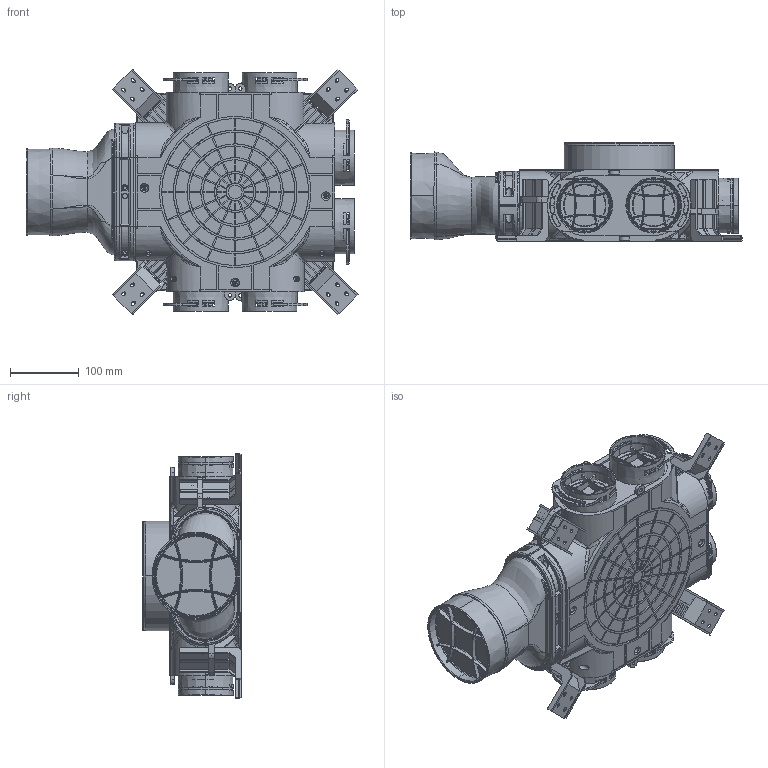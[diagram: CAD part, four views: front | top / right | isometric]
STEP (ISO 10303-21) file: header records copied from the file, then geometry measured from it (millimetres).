
FILE_DESCRIPTION((''),'2;1');
FILE_NAME('VCB160-6-P125_UPR_ASM','2025-12-29T15:58:10',('niepogodzinskij'),(''),'CREO PARAMETRIC BY PTC INC, 2025010','CREO PARAMETRIC BY PTC INC, 2025010','');
FILE_SCHEMA(('CONFIG_CONTROL_DESIGN'));
Length unit declared in the file: millimetre
Products named in the file (8): 0VCBOP_OBUD_VCB_PELNA_1_1_2_3_4; 0VCBP75X2_1_1_2_3_4; 0VPEO_OBEJMA_1_1_2_3_4; 0VCBP125_PRZYLACZE125_1_1_2_3_4; 0VBWM_WSPORNIK_VPB_VCB_1_1_2__4; 0VCBO160_OBUD_VCB_FI160_1; ASM0001_ASM_1_1_2_3_4_ASM; VCB160-6-P125_UPR_ASM
Assembly tree (13 placements, depth 3):
  VCB160-6-P125_UPR_ASM
    ASM0001_ASM_1_1_2_3_4_ASM
      0VCBOP_OBUD_VCB_PELNA_1_1_2_3_4
      0VCBP75X2_1_1_2_3_4  x3
      0VPEO_OBEJMA_1_1_2_3_4  x2
      0VCBP125_PRZYLACZE125_1_1_2_3_4
      0VBWM_WSPORNIK_VPB_VCB_1_1_2__4  x4
      0VCBO160_OBUD_VCB_FI160_1
Bounding box: 483.18 x 143.7 x 357.57 mm (x, y, z)
Volume: 9693671.8 mm3; surface area: 1039114.5 mm2
Topology: 12 solids, 17 shells, 5535 faces, 14765 edges, 9173 vertices
Faces by surface type: plane 1889, cylinder 1258, torus 930, bspline 780, cone 506, sphere 156, extrusion 16
Entity records: 132058 total; most frequent: CARTESIAN_POINT 54330, ORIENTED_EDGE 16802, DIRECTION 15949, EDGE_CURVE 8401, AXIS2_PLACEMENT_3D 6085, VERTEX_POINT 5322, VECTOR 3779, LINE 3771
